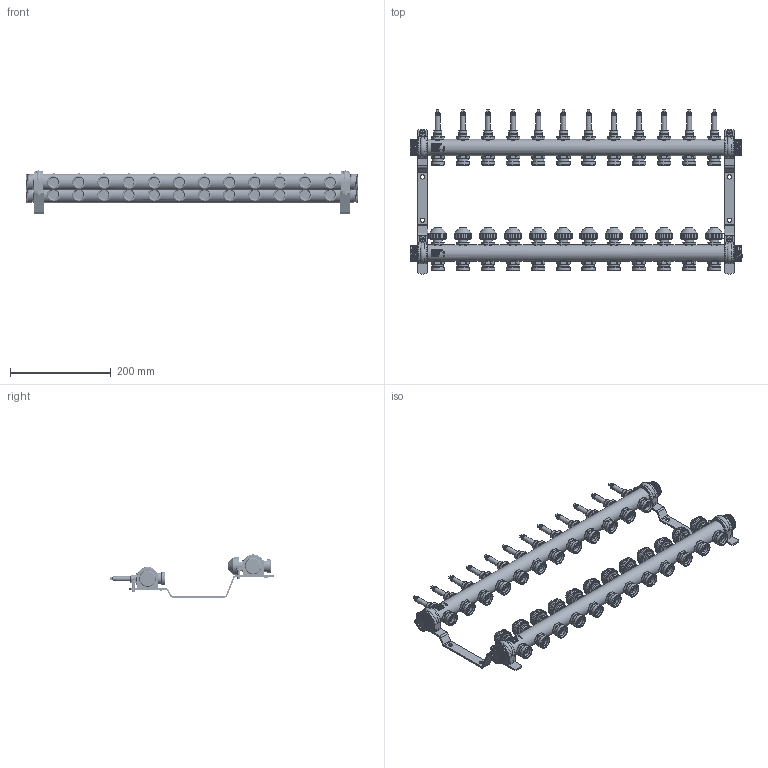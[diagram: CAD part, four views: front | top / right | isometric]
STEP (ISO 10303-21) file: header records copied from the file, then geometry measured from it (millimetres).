
FILE_DESCRIPTION((''),'2;1');
FILE_NAME('C:\Users\duckj\Desktop\10070010.stp','2017-08-03T14:14:30',('duckj'),(''),'Autodesk Inventor 2013','Autodesk Inventor 2013','');
FILE_SCHEMA(('CONFIG_CONTROL_DESIGN'));
Length unit declared in the file: millimetre
Products named in the file (4): 01082017_003-E; 26102016_005; 01082017_003-VL; 01082017_003-RL
Assembly tree (4 placements, depth 2):
  01082017_003-E
    26102016_005  x2
    01082017_003-VL
    01082017_003-RL
Bounding box: 660 x 326.05 x 85.69 mm (x, y, z)
Volume: 1700099.1 mm3; surface area: 345350.3 mm2
Topology: 4 solids, 4 shells, 4428 faces, 11511 edges, 7530 vertices
Faces by surface type: plane 2185, cylinder 1151, cone 776, bspline 242, torus 70, sphere 4
Full cylindrical faces by diameter (mm): 6 x8, 8.5 x4, 9 x12, 10 x24, 12 x4, 15.5 x12, 16.5 x24, 18 x12, 18.1 x24, 18.5 x48, 22 x76, 26.441 x24, 30 x12, 33 x6, 33.7 x12
Entity records: 198329 total; most frequent: CARTESIAN_POINT 95681, ORIENTED_EDGE 20870, DIRECTION 19797, EDGE_CURVE 10435, AXIS2_PLACEMENT_3D 7643, VERTEX_POINT 7066, EDGE_LOOP 5201, VECTOR 4511
